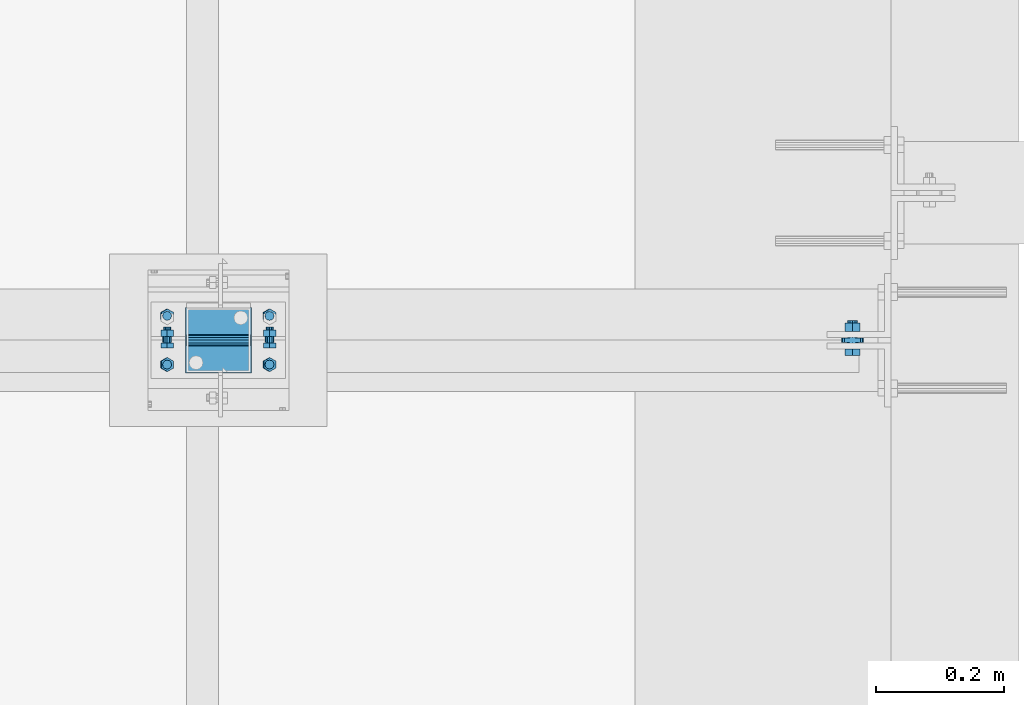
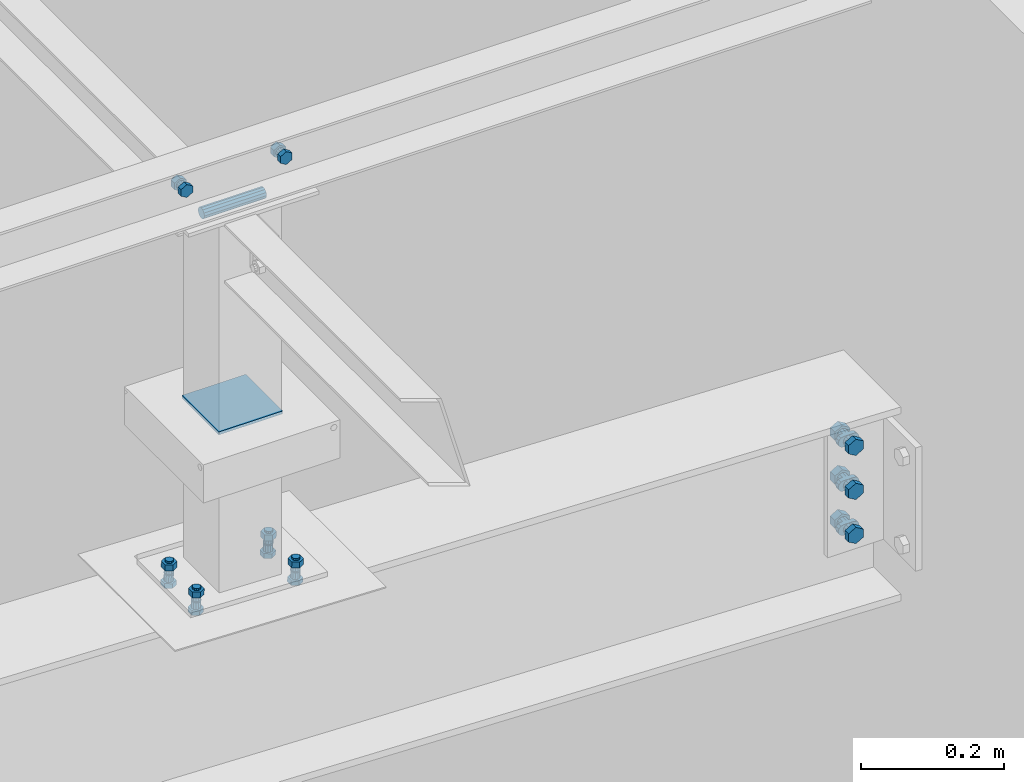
# One storey, part 277 of 3134: 6 mechanical fasteners, 5 elements without a shape of their own.
"""IFC2X3 building model written with IfcOpenShell, lengths in millimetres."""

from ifc_helpers import new_model, si_unit, frame, origin_with_axes, place, context, subcontext, project, spatial, faceted_brep, source, transform, mapped, material, type_object, element, aggregate, save


model = new_model("IFC2X3")

# Units and contexts
model_context = context("Model", 3, precision=1e-05, world=origin_with_axes())
body_context = subcontext(model_context, "Body", "Model", "MODEL_VIEW")
ifc_project = project(units=[si_unit("LENGTHUNIT", "METRE", prefix="MILLI"), si_unit("AREAUNIT", "SQUARE_METRE"), si_unit("VOLUMEUNIT", "CUBIC_METRE"), si_unit("MASSUNIT", "GRAM", prefix="KILO"), si_unit("TIMEUNIT", "SECOND"), si_unit("PLANEANGLEUNIT", "RADIAN"), si_unit("SOLIDANGLEUNIT", "STERADIAN"), si_unit("THERMODYNAMICTEMPERATUREUNIT", "DEGREE_CELSIUS"), si_unit("LUMINOUSINTENSITYUNIT", "LUMEN")], contexts=[model_context])

# Site, building, storey
site_placement = place(None, origin_with_axes())
site = spatial("IfcSite", under=ifc_project, at=site_placement, CompositionType="ELEMENT")
building_placement = place(site_placement, origin_with_axes())
building = spatial("IfcBuilding", under=site, at=building_placement, Name="Undefined", CompositionType="ELEMENT")
storey_placement = place(building_placement, origin_with_axes())
storey = spatial("IfcBuildingStorey", under=building, at=storey_placement, Name="Undefined", CompositionType="ELEMENT", Elevation=0.0)

# Assembly, mechanical fastener
assembly_1_placement = place(storey_placement, origin_with_axes())
assembly_1 = element("IfcElementAssembly", 1, at=assembly_1_placement, inside=storey, AssemblyPlace="NOTDEFINED", PredefinedType="RIGID_FRAME")
ifc_material_1 = material(Name="8.8")
mechanical_fastener_type = type_object("IfcMechanicalFastenerType", Name="Bolt assembly")
shared_shape_1 = source(origin_with_axes(), body_context, "Body", "Brep", [
    faceted_brep([(13.856406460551, -24.0, 0.0), (6.92820323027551, -24.0, 12.0), (-6.92820323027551, -24.0, 12.0), (-13.856406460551, -24.0, 1.69692038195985e-15), (-6.92820323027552, -24.0, -12.0), (6.9282032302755, -24.0, -12.0), (6.9282032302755, -14.0, -12.0), (-6.92820323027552, -14.0, -12.0), (-13.856406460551, -14.0, 1.69692038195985e-15), (-6.92820323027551, -14.0, 12.0), (6.92820323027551, -14.0, 12.0), (13.856406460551, -14.0, 0.0), (8.0, -14.0, 0.0), (6.92820323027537, -14.0, 4.00000000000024), (3.99999999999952, -14.0, 6.92820323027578), (-8.29068785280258e-13, -14.0, 8.0), (-4.00000000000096, -14.0, 6.92820323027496), (-6.9282032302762, -14.0, 3.99999999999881), (-8.0, -14.0, -1.65813757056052e-12), (-6.92820323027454, -14.0, -4.00000000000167), (-3.99999999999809, -14.0, -6.92820323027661), (2.47832457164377e-12, -14.0, -8.0), (4.00000000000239, -14.0, -6.92820323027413), (6.92820323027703, -14.0, -3.99999999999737), (6.92820323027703, 31.0, -3.99999999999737), (4.00000000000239, 31.0, -6.92820323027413), (2.47832457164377e-12, 31.0, -8.0), (-3.99999999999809, 31.0, -6.92820323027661), (-6.92820323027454, 31.0, -4.00000000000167), (-8.0, 31.0, -1.65813757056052e-12), (-6.9282032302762, 31.0, 3.99999999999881), (-4.00000000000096, 31.0, 6.92820323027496), (-8.29068785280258e-13, 31.0, 8.0), (3.99999999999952, 31.0, 6.92820323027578), (6.92820323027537, 31.0, 4.00000000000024), (8.0, 31.0, 0.0), (13.856406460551, 13.9999999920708, 0.0), (6.92820323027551, 13.9999999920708, 12.0), (-6.92820323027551, 13.9999999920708, 12.0), (-13.856406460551, 13.9999999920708, 1.69692038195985e-15), (-6.92820323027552, 13.9999999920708, -12.0), (6.9282032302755, 13.9999999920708, -12.0), (6.9282032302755, 27.0, -12.0), (-6.92820323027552, 27.0, -12.0), (-13.856406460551, 27.0, 1.69692038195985e-15), (-6.92820323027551, 27.0, 12.0), (6.92820323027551, 27.0, 12.0), (13.856406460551, 27.0, 0.0)], [[[0, 1, 2, 3, 4, 5]], [[6, 7, 8, 9, 10, 11]], [[0, 11, 10, 1]], [[1, 10, 9, 2]], [[2, 9, 8, 3]], [[3, 8, 7, 4]], [[4, 7, 6, 5]], [[5, 6, 11, 0]], [[12, 13, 14, 15, 16, 17, 18, 19, 20, 21, 22, 23]], [[24, 25, 26, 27, 28, 29, 30, 31, 32, 33, 34, 35]], [[12, 35, 34, 13]], [[13, 34, 33, 14]], [[14, 33, 32, 15]], [[15, 32, 31, 16]], [[16, 31, 30, 17]], [[17, 30, 29, 18]], [[18, 29, 28, 19]], [[19, 28, 27, 20]], [[20, 27, 26, 21]], [[21, 26, 25, 22]], [[22, 25, 24, 23]], [[23, 24, 35, 12]], [[36, 37, 38, 39, 40, 41]], [[42, 43, 44, 45, 46, 47]], [[36, 47, 46, 37]], [[37, 46, 45, 38]], [[38, 45, 44, 39]], [[39, 44, 43, 40]], [[40, 43, 42, 41]], [[41, 42, 47, 36]]]),
    faceted_brep([(9.0, -3.75, 8.0), (8.31491579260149, -3.75, 11.444150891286), (6.3639610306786, -3.75, 14.3639610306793), (-9.3270238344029e-13, -3.75, 17.0), (-4.50000000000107, -3.75, 15.7942286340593), (-7.79422863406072, -3.75, 12.4999999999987), (-9.0, -3.75, 7.99999999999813), (-9.0, -3.75, -8.00000000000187), (-7.79422863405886, -3.75, -12.5000000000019), (-4.49999999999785, -3.75, -15.7942286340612), (2.78811514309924e-12, -3.75, -17.0), (4.50000000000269, -3.75, -15.7942286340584), (7.79422863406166, -3.75, -12.499999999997), (9.0, -3.75, -7.99999999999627), (9.0, 3.75, -7.99999999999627), (7.79422863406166, 3.75, -12.499999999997), (4.50000000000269, 3.75, -15.7942286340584), (2.78811514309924e-12, 3.75, -17.0), (-4.49999999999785, 3.75, -15.7942286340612), (-7.79422863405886, 3.75, -12.5000000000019), (-9.0, 3.75, -8.00000000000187), (-9.0, 3.75, 7.99999999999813), (-7.79422863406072, 3.75, 12.4999999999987), (-4.50000000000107, 3.75, 15.7942286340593), (-9.3270238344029e-13, 3.75, 17.0), (3.44415089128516, 3.75, 16.3149157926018), (6.3639610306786, 3.75, 14.3639610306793), (8.31491579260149, 3.75, 11.444150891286), (9.0, 3.75, 8.0), (3.44415089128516, -3.75, 16.3149157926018), (9.0, 3.9, 0.0), (7.79422863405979, 3.9, 4.50000000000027), (4.49999999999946, 3.9, 7.79422863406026), (-9.3270238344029e-13, 3.9, 9.0), (-4.50000000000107, 3.9, 7.79422863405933), (-7.79422863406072, 3.9, 4.49999999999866), (-9.0, 3.9, -1.86540476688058e-12), (-7.79422863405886, 3.9, -4.50000000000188), (-4.49999999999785, 3.9, -7.79422863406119), (2.78811514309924e-12, 3.9, -9.0), (4.50000000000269, 3.9, -7.7942286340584), (7.79422863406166, 3.9, -4.49999999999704), (7.79422863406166, 14.0, -4.49999999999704), (4.50000000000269, 14.0, -7.7942286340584), (2.78811514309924e-12, 14.0, -9.0), (-4.49999999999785, 14.0, -7.79422863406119), (-7.79422863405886, 14.0, -4.50000000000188), (-9.0, 14.0, -1.86540476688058e-12), (-7.79422863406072, 14.0, 4.49999999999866), (-4.50000000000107, 14.0, 7.79422863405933), (-9.3270238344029e-13, 14.0, 9.0), (4.49999999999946, 14.0, 7.79422863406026), (7.79422863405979, 14.0, 4.50000000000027), (9.0, 14.0, 0.0), (9.0, -13.9, 0.0), (7.79422863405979, -13.9, 4.50000000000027), (4.49999999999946, -13.9, 7.79422863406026), (-9.3270238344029e-13, -13.9, 9.0), (-4.50000000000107, -13.9, 7.79422863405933), (-7.79422863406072, -13.9, 4.49999999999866), (-9.0, -13.9, -1.86540476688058e-12), (-7.79422863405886, -13.9, -4.50000000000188), (-4.49999999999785, -13.9, -7.79422863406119), (2.78811514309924e-12, -13.9, -9.0), (4.50000000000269, -13.9, -7.7942286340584), (7.79422863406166, -13.9, -4.49999999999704), (7.79422863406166, -3.9, -4.49999999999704), (4.50000000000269, -3.9, -7.7942286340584), (2.78811514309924e-12, -3.9, -9.0), (-4.49999999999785, -3.9, -7.79422863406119), (-7.79422863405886, -3.9, -4.50000000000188), (-9.0, -3.9, -1.86540476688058e-12), (-7.79422863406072, -3.9, 4.49999999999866), (-4.50000000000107, -3.9, 7.79422863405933), (-9.3270238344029e-13, -3.9, 9.0), (4.49999999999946, -3.9, 7.79422863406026), (7.79422863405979, -3.9, 4.50000000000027), (9.0, -3.9, 0.0)], [[[0, 1, 2, 3, 4, 5, 6, 7, 8, 9, 10, 11, 12, 13]], [[14, 15, 16, 17, 18, 19, 20, 21, 22, 23, 24, 25, 26, 27, 28]], [[0, 28, 27, 1]], [[1, 27, 26, 2]], [[2, 26, 25, 29]], [[29, 25, 24, 3]], [[3, 24, 23, 4]], [[4, 23, 22, 5]], [[5, 22, 21, 6]], [[6, 21, 20, 7]], [[7, 20, 19, 8]], [[8, 19, 18, 9]], [[9, 18, 17, 10]], [[10, 17, 16, 11]], [[11, 16, 15, 12]], [[12, 15, 14, 13]], [[13, 14, 28, 0]], [[30, 31, 32, 33, 34, 35, 36, 37, 38, 39, 40, 41]], [[42, 43, 44, 45, 46, 47, 48, 49, 50, 51, 52, 53]], [[30, 53, 52, 31]], [[31, 52, 51, 32]], [[32, 51, 50, 33]], [[33, 50, 49, 34]], [[34, 49, 48, 35]], [[35, 48, 47, 36]], [[36, 47, 46, 37]], [[37, 46, 45, 38]], [[38, 45, 44, 39]], [[39, 44, 43, 40]], [[40, 43, 42, 41]], [[41, 42, 53, 30]], [[54, 55, 56, 57, 58, 59, 60, 61, 62, 63, 64, 65]], [[66, 67, 68, 69, 70, 71, 72, 73, 74, 75, 76, 77]], [[54, 77, 76, 55]], [[55, 76, 75, 56]], [[56, 75, 74, 57]], [[57, 74, 73, 58]], [[58, 73, 72, 59]], [[59, 72, 71, 60]], [[60, 71, 70, 61]], [[61, 70, 69, 62]], [[62, 69, 68, 63]], [[63, 68, 67, 64]], [[64, 67, 66, 65]], [[65, 66, 77, 54]]]),
])
mechanical_fastener_1_placement = place(assembly_1_placement, frame((32665.0, 58220.0, 10096.4159140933), z_axis=(1.0, 0.0, 0.0), x_axis=(0.0, 0.0, -1.0)))
mechanical_fastener_1 = element("IfcMechanicalFastener", 2, at=mechanical_fastener_1_placement, type_object=mechanical_fastener_type, material=ifc_material_1, Name="Bolt assembly", NominalDiameter=16.0, NominalLength=45.0, context=body_context, shape_type="MappedRepresentation", body=[
    mapped(shared_shape_1, transform((0.0, 0.0, 0.0))),
    mapped(shared_shape_1, transform((75.0, 0.0, 0.0))),
    mapped(shared_shape_1, transform((150.0, 0.0, 0.0))),
])
aggregate(assembly_1, [mechanical_fastener_1])

assembly_2_placement = place(storey_placement, origin_with_axes())
assembly_2 = element("IfcElementAssembly", 3, at=assembly_2_placement, inside=storey, AssemblyPlace="NOTDEFINED", PredefinedType="RIGID_FRAME")
shared_shape_2 = source(origin_with_axes(), body_context, "Body", "Brep", [
    faceted_brep([(7.0, 13.0000253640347, 0.0), (6.06217782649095, 13.0000253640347, 3.50000000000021), (3.49999999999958, 13.0000253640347, 6.06217782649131), (-7.25435187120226e-13, 13.0000253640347, 7.0), (-3.50000000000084, 13.0000253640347, 6.06217782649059), (-6.06217782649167, 13.0000253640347, 3.49999999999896), (-7.0, 13.0000253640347, -1.45087037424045e-12), (-6.06217782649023, 13.0000253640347, -3.50000000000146), (-3.49999999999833, 13.0000253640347, -6.06217782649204), (2.1685340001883e-12, 13.0000253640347, -7.0), (3.50000000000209, 13.0000253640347, -6.06217782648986), (6.0621778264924, 13.0000253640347, -3.4999999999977), (6.0621778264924, 15.0999999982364, -3.4999999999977), (3.50000000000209, 15.0999999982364, -6.06217782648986), (2.1685340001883e-12, 15.0999999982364, -7.0), (-3.49999999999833, 15.0999999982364, -6.06217782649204), (-6.06217782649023, 15.0999999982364, -3.50000000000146), (-7.0, 15.0999999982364, -1.45087037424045e-12), (-6.06217782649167, 15.0999999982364, 3.49999999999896), (-3.50000000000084, 15.0999999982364, 6.06217782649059), (-7.25435187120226e-13, 15.0999999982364, 7.0), (3.49999999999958, 15.0999999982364, 6.06217782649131), (6.06217782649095, 15.0999999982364, 3.50000000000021), (7.0, 15.0999999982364, 0.0)], [[[0, 1, 2, 3, 4, 5, 6, 7, 8, 9, 10, 11]], [[12, 13, 14, 15, 16, 17, 18, 19, 20, 21, 22, 23]], [[0, 23, 22, 1]], [[1, 22, 21, 2]], [[2, 21, 20, 3]], [[3, 20, 19, 4]], [[4, 19, 18, 5]], [[5, 18, 17, 6]], [[6, 17, 16, 7]], [[7, 16, 15, 8]], [[8, 15, 14, 9]], [[9, 14, 13, 10]], [[10, 13, 12, 11]], [[11, 12, 23, 0]]]),
])
mechanical_fastener_2_placement = place(assembly_2_placement, frame((31674.2851187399, 58258.0, 10204.1872055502), z_axis=(-0.99951962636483, 0.0, 0.0309922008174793), x_axis=(0.0, -1.0, 0.0)))
mechanical_fastener_2 = element("IfcMechanicalFastener", 4, at=mechanical_fastener_2_placement, type_object=mechanical_fastener_type, material=ifc_material_1, Name="Bolt assembly", NominalDiameter=12.0, NominalLength=2.0, context=body_context, shape_type="MappedRepresentation", body=[
    mapped(shared_shape_2, transform((0.0, -5.32963895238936e-10, -79.9999999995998))),
    mapped(shared_shape_2, transform((76.0, -5.32963895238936e-10, -79.9999999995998))),
    mapped(shared_shape_2, transform((0.0, 5.3114490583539e-10, 79.9999999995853))),
    mapped(shared_shape_2, transform((76.0, 5.3114490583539e-10, 79.9999999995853))),
])
aggregate(assembly_2, [mechanical_fastener_2])

# Assembly, mechanical fasteners
assembly_3_placement = place(storey_placement, origin_with_axes())
assembly_3 = element("IfcElementAssembly", 5, at=assembly_3_placement, inside=storey, AssemblyPlace="NOTDEFINED", PredefinedType="RIGID_FRAME")
shared_shape_3 = source(origin_with_axes(), body_context, "Body", "Brep", [
    faceted_brep([(9.0, -50.0, 0.0), (7.79422863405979, -50.0, 4.50000000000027), (4.49999999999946, -50.0, 7.79422863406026), (-9.3270238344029e-13, -50.0, 9.0), (-4.50000000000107, -50.0, 7.79422863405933), (-7.79422863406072, -50.0, 4.49999999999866), (-9.0, -50.0, -1.86540476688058e-12), (-7.79422863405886, -50.0, -4.50000000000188), (-4.49999999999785, -50.0, -7.79422863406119), (2.78811514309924e-12, -50.0, -9.0), (4.50000000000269, -50.0, -7.7942286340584), (7.79422863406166, -50.0, -4.49999999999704), (7.79422863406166, 50.1, -4.49999999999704), (4.50000000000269, 50.1, -7.7942286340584), (2.78811514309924e-12, 50.1, -9.0), (-4.49999999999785, 50.1, -7.79422863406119), (-7.79422863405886, 50.1, -4.50000000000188), (-9.0, 50.1, -1.86540476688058e-12), (-7.79422863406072, 50.1, 4.49999999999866), (-4.50000000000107, 50.1, 7.79422863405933), (-9.3270238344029e-13, 50.1, 9.0), (4.49999999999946, 50.1, 7.79422863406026), (7.79422863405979, 50.1, 4.50000000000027), (9.0, 50.1, 0.0)], [[[0, 1, 2, 3, 4, 5, 6, 7, 8, 9, 10, 11]], [[12, 13, 14, 15, 16, 17, 18, 19, 20, 21, 22, 23]], [[0, 23, 22, 1]], [[1, 22, 21, 2]], [[2, 21, 20, 3]], [[3, 20, 19, 4]], [[4, 19, 18, 5]], [[5, 18, 17, 6]], [[6, 17, 16, 7]], [[7, 16, 15, 8]], [[8, 15, 14, 9]], [[9, 14, 13, 10]], [[10, 13, 12, 11]], [[11, 12, 23, 0]]]),
])
mechanical_fastener_3_placement = place(assembly_3_placement, frame((31675.0, 58220.0, 10845.0), z_axis=(0.0, 1.0, 0.0), x_axis=(0.0, 0.0, 1.0)))
mechanical_fastener_3 = element("IfcMechanicalFastener", 6, at=mechanical_fastener_3_placement, type_object=mechanical_fastener_type, material=ifc_material_1, Name="Bolt assembly", NominalDiameter=16.0, NominalLength=100.0, context=body_context, shape_type="MappedRepresentation", body=[
    mapped(shared_shape_3, transform((0.0, 0.0, 0.0))),
])
ifc_material_2 = material(Name="6.8")
shared_shape_4 = source(origin_with_axes(), body_context, "Body", "Brep", [
    faceted_brep([(51.5, 1.36424205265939e-12, 50.0), (51.3858192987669, 1.36424205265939e-12, 50.5740251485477), (51.0606601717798, 1.36424205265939e-12, 51.0606601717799), (50.5740251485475, 1.36424205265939e-12, 51.385819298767), (-50.0000000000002, 1.36424205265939e-12, 51.5), (-50.7500000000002, 1.36424205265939e-12, 51.2990381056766), (-51.2990381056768, 1.36424205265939e-12, 50.7499999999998), (-51.5, 1.36424205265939e-12, 49.9999999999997), (-51.5, 1.36424205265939e-12, -50.0000000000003), (-51.2990381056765, 1.36424205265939e-12, -50.7500000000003), (-50.7499999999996, 1.36424205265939e-12, -51.2990381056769), (-49.9999999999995, 1.36424205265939e-12, -51.5), (50.0000000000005, 1.36424205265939e-12, -51.5), (50.7500000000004, 1.36424205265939e-12, -51.2990381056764), (51.2990381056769, 1.36424205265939e-12, -50.7499999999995), (51.5, 1.36424205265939e-12, -49.9999999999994), (51.5, 5.10000000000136, -49.9999999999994), (51.2990381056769, 5.10000000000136, -50.7499999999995), (50.7500000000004, 5.10000000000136, -51.2990381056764), (50.0000000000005, 5.10000000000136, -51.5), (-49.9999999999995, 5.10000000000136, -51.5), (-50.7499999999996, 5.10000000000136, -51.2990381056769), (-51.2990381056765, 5.10000000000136, -50.7500000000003), (-51.5, 5.10000000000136, -50.0000000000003), (-51.5, 5.10000000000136, 49.9999999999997), (-51.2990381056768, 5.10000000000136, 50.7499999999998), (-50.7500000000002, 5.10000000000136, 51.2990381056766), (-50.0000000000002, 5.10000000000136, 51.5), (50.5740251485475, 5.10000000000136, 51.385819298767), (51.0606601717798, 5.10000000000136, 51.0606601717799), (51.3858192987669, 5.10000000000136, 50.5740251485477), (51.5, 5.10000000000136, 50.0)], [[[0, 1, 2, 3, 4, 5, 6, 7, 8, 9, 10, 11, 12, 13, 14, 15]], [[16, 17, 18, 19, 20, 21, 22, 23, 24, 25, 26, 27, 28, 29, 30, 31]], [[0, 31, 30, 1]], [[1, 30, 29, 2]], [[2, 29, 28, 3]], [[3, 28, 27, 4]], [[4, 27, 26, 5]], [[5, 26, 25, 6]], [[6, 25, 24, 7]], [[7, 24, 23, 8]], [[8, 23, 22, 9]], [[9, 22, 21, 10]], [[10, 21, 20, 11]], [[11, 20, 19, 12]], [[12, 19, 18, 13]], [[13, 18, 17, 14]], [[14, 17, 16, 15]], [[15, 16, 31, 0]]]),
])
mechanical_fastener_4_placement = place(assembly_3_placement, frame((31675.0, 58220.0, 10503.87), z_axis=(0.0, -1.0, 0.0), x_axis=(-1.0, 0.0, 0.0)))
mechanical_fastener_4 = element("IfcMechanicalFastener", 7, at=mechanical_fastener_4_placement, type_object=mechanical_fastener_type, material=ifc_material_2, Name="Bolt assembly", NominalDiameter=10.0, NominalLength=5.0, context=body_context, shape_type="MappedRepresentation", body=[
    mapped(shared_shape_4, transform((0.0, 0.0, 0.0))),
])
aggregate(assembly_3, [mechanical_fastener_3, mechanical_fastener_4])

# Assembly, mechanical fastener
assembly_4_placement = place(storey_placement, origin_with_axes())
assembly_4 = element("IfcElementAssembly", 8, at=assembly_4_placement, inside=storey, AssemblyPlace="NOTDEFINED", PredefinedType="RIGID_FRAME")
shared_shape_5 = source(origin_with_axes(), body_context, "Body", "Brep", [
    faceted_brep([(10.9696551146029, -12.0, 0.0), (5.48482755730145, -12.0, 9.5), (-5.48482755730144, -12.0, 9.5), (-10.9696551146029, -12.0, 1.34339530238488e-15), (-5.48482755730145, -12.0, -9.5), (5.48482755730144, -12.0, -9.50000000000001), (5.48482755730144, -4.0, -9.50000000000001), (-5.48482755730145, -4.0, -9.5), (-10.9696551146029, -4.0, 1.34339530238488e-15), (-5.48482755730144, -4.0, 9.5), (5.48482755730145, -4.0, 9.5), (10.9696551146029, -4.0, 0.0), (6.0, -4.0, 0.0), (5.19615242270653, -4.0, 3.00000000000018), (2.99999999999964, -4.0, 5.19615242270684), (-6.21801588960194e-13, -4.0, 6.0), (-3.00000000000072, -4.0, 5.19615242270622), (-5.19615242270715, -4.0, 2.9999999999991), (-6.0, -4.0, -1.24360317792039e-12), (-5.19615242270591, -4.0, -3.00000000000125), (-2.99999999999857, -4.0, -5.19615242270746), (1.85874342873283e-12, -4.0, -6.0), (3.00000000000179, -4.0, -5.1961524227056), (5.19615242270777, -4.0, -2.99999999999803), (5.19615242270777, 21.0, -2.99999999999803), (3.00000000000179, 21.0, -5.1961524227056), (1.85874342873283e-12, 21.0, -6.0), (-2.99999999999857, 21.0, -5.19615242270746), (-5.19615242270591, 21.0, -3.00000000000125), (-6.0, 21.0, -1.24360317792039e-12), (-5.19615242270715, 21.0, 2.9999999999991), (-3.00000000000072, 21.0, 5.19615242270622), (-6.21801588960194e-13, 21.0, 6.0), (2.99999999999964, 21.0, 5.19615242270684), (5.19615242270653, 21.0, 3.00000000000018), (6.0, 21.0, 0.0), (10.9696551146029, 6.00000000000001, 0.0), (5.48482755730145, 6.00000000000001, 9.5), (-5.48482755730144, 6.00000000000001, 9.5), (-10.9696551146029, 6.00000000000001, 1.34339530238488e-15), (-5.48482755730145, 6.00000000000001, -9.5), (5.48482755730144, 6.00000000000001, -9.50000000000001), (5.48482755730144, 16.0, -9.50000000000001), (-5.48482755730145, 16.0, -9.5), (-10.9696551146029, 16.0, 1.34339530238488e-15), (-5.48482755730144, 16.0, 9.5), (5.48482755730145, 16.0, 9.5), (10.9696551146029, 16.0, 0.0)], [[[0, 1, 2, 3, 4, 5]], [[6, 7, 8, 9, 10, 11]], [[0, 11, 10, 1]], [[1, 10, 9, 2]], [[2, 9, 8, 3]], [[3, 8, 7, 4]], [[4, 7, 6, 5]], [[5, 6, 11, 0]], [[12, 13, 14, 15, 16, 17, 18, 19, 20, 21, 22, 23]], [[24, 25, 26, 27, 28, 29, 30, 31, 32, 33, 34, 35]], [[12, 35, 34, 13]], [[13, 34, 33, 14]], [[14, 33, 32, 15]], [[15, 32, 31, 16]], [[16, 31, 30, 17]], [[17, 30, 29, 18]], [[18, 29, 28, 19]], [[19, 28, 27, 20]], [[20, 27, 26, 21]], [[21, 26, 25, 22]], [[22, 25, 24, 23]], [[23, 24, 35, 12]], [[36, 37, 38, 39, 40, 41]], [[42, 43, 44, 45, 46, 47]], [[36, 47, 46, 37]], [[37, 46, 45, 38]], [[38, 45, 44, 39]], [[39, 44, 43, 40]], [[40, 43, 42, 41]], [[41, 42, 47, 36]]]),
    faceted_brep([(7.0, -3.9, 0.0), (6.06217782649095, -3.9, 3.50000000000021), (3.49999999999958, -3.9, 6.06217782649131), (-7.25435187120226e-13, -3.9, 7.0), (-3.50000000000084, -3.9, 6.06217782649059), (-6.06217782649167, -3.9, 3.49999999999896), (-7.0, -3.9, -1.45087037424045e-12), (-6.06217782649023, -3.9, -3.50000000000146), (-3.49999999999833, -3.9, -6.06217782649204), (2.1685340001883e-12, -3.9, -7.0), (3.50000000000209, -3.9, -6.06217782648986), (6.0621778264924, -3.9, -3.4999999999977), (6.0621778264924, 0.0999999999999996, -3.4999999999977), (3.50000000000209, 0.0999999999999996, -6.06217782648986), (2.1685340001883e-12, 0.0999999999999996, -7.0), (-3.49999999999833, 0.0999999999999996, -6.06217782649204), (-6.06217782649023, 0.0999999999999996, -3.50000000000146), (-7.0, 0.0999999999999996, -1.45087037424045e-12), (-6.06217782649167, 0.0999999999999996, 3.49999999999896), (-3.50000000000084, 0.0999999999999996, 6.06217782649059), (-7.25435187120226e-13, 0.0999999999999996, 7.0), (3.49999999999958, 0.0999999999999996, 6.06217782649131), (6.06217782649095, 0.0999999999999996, 3.50000000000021), (7.0, 0.0999999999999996, 0.0), (7.0, -0.1, 0.0), (6.06217782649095, -0.1, 3.50000000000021), (3.49999999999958, -0.1, 6.06217782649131), (-7.25435187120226e-13, -0.1, 7.0), (-3.50000000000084, -0.1, 6.06217782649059), (-6.06217782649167, -0.1, 3.49999999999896), (-7.0, -0.1, -1.45087037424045e-12), (-6.06217782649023, -0.1, -3.50000000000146), (-3.49999999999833, -0.1, -6.06217782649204), (2.1685340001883e-12, -0.1, -7.0), (3.50000000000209, -0.1, -6.06217782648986), (6.0621778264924, -0.1, -3.4999999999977), (6.0621778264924, 6.00000000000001, -3.4999999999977), (3.50000000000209, 6.00000000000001, -6.06217782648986), (2.1685340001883e-12, 6.00000000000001, -7.0), (-3.49999999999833, 6.00000000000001, -6.06217782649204), (-6.06217782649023, 6.00000000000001, -3.50000000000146), (-7.0, 6.00000000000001, -1.45087037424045e-12), (-6.06217782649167, 6.00000000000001, 3.49999999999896), (-3.50000000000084, 6.00000000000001, 6.06217782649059), (-7.25435187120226e-13, 6.00000000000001, 7.0), (3.49999999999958, 6.00000000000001, 6.06217782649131), (6.06217782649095, 6.00000000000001, 3.50000000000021), (7.0, 6.00000000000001, 0.0)], [[[0, 1, 2, 3, 4, 5, 6, 7, 8, 9, 10, 11]], [[12, 13, 14, 15, 16, 17, 18, 19, 20, 21, 22, 23]], [[0, 23, 22, 1]], [[1, 22, 21, 2]], [[2, 21, 20, 3]], [[3, 20, 19, 4]], [[4, 19, 18, 5]], [[5, 18, 17, 6]], [[6, 17, 16, 7]], [[7, 16, 15, 8]], [[8, 15, 14, 9]], [[9, 14, 13, 10]], [[10, 13, 12, 11]], [[11, 12, 23, 0]], [[24, 25, 26, 27, 28, 29, 30, 31, 32, 33, 34, 35]], [[36, 37, 38, 39, 40, 41, 42, 43, 44, 45, 46, 47]], [[24, 47, 46, 25]], [[25, 46, 45, 26]], [[26, 45, 44, 27]], [[27, 44, 43, 28]], [[28, 43, 42, 29]], [[29, 42, 41, 30]], [[30, 41, 40, 31]], [[31, 40, 39, 32]], [[32, 39, 38, 33]], [[33, 38, 37, 34]], [[34, 37, 36, 35]], [[35, 36, 47, 24]]]),
])
mechanical_fastener_5_placement = place(assembly_4_placement, frame((31675.0, 58220.0, 10900.0), z_axis=(1.0, 0.0, 0.0), x_axis=(0.0, 0.0, -1.0)))
mechanical_fastener_5 = element("IfcMechanicalFastener", 9, at=mechanical_fastener_5_placement, type_object=mechanical_fastener_type, material=ifc_material_1, Name="Bolt assembly", NominalDiameter=12.0, NominalLength=25.0, context=body_context, shape_type="MappedRepresentation", body=[
    mapped(shared_shape_5, transform((0.0, -5.32963895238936e-10, -79.9999999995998))),
    mapped(shared_shape_5, transform((0.0, 5.3114490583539e-10, 79.9999999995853))),
])
aggregate(assembly_4, [mechanical_fastener_5])

assembly_5_placement = place(storey_placement, origin_with_axes())
assembly_5 = element("IfcElementAssembly", 10, at=assembly_5_placement, inside=storey, Name="IPE330", AssemblyPlace="NOTDEFINED", PredefinedType="RIGID_FRAME")
shared_shape_6 = source(origin_with_axes(), body_context, "Body", "Brep", [
    faceted_brep([(10.9696551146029, -6.48557985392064, 0.0), (5.48482755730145, -6.48557985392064, 9.5), (-5.48482755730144, -6.48557985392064, 9.5), (-10.9696551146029, -6.48557985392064, 1.34339530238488e-15), (-5.48482755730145, -6.48557985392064, -9.5), (5.48482755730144, -6.48557985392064, -9.50000000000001), (5.48482755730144, 1.51442014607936, -9.50000000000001), (-5.48482755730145, 1.51442014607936, -9.5), (-10.9696551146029, 1.51442014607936, 1.34339530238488e-15), (-5.48482755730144, 1.51442014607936, 9.5), (5.48482755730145, 1.51442014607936, 9.5), (10.9696551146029, 1.51442014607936, 0.0), (6.0, 1.51442014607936, 0.0), (5.19615242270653, 1.51442014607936, 3.00000000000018), (2.99999999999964, 1.51442014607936, 5.19615242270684), (-6.21801588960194e-13, 1.51442014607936, 6.0), (-3.00000000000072, 1.51442014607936, 5.19615242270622), (-5.19615242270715, 1.51442014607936, 2.9999999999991), (-6.0, 1.51442014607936, -1.24360317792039e-12), (-5.19615242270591, 1.51442014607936, -3.00000000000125), (-2.99999999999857, 1.51442014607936, -5.19615242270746), (1.85874342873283e-12, 1.51442014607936, -6.0), (3.00000000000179, 1.51442014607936, -5.1961524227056), (5.19615242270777, 1.51442014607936, -2.99999999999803), (5.19615242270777, 36.5144201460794, -2.99999999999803), (3.00000000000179, 36.5144201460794, -5.1961524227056), (1.85874342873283e-12, 36.5144201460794, -6.0), (-2.99999999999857, 36.5144201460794, -5.19615242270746), (-5.19615242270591, 36.5144201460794, -3.00000000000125), (-6.0, 36.5144201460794, -1.24360317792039e-12), (-5.19615242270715, 36.5144201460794, 2.9999999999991), (-3.00000000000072, 36.5144201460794, 5.19615242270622), (-6.21801588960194e-13, 36.5144201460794, 6.0), (2.99999999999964, 36.5144201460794, 5.19615242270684), (5.19615242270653, 36.5144201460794, 3.00000000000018), (6.0, 36.5144201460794, 0.0), (10.9696551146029, 23.0139082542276, 0.0), (5.48482755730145, 23.0139082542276, 9.5), (-5.48482755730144, 23.0139082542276, 9.5), (-10.9696551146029, 23.0139082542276, 1.34339530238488e-15), (-5.48482755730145, 23.0139082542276, -9.5), (5.48482755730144, 23.0139082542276, -9.50000000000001), (5.48482755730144, 33.0139082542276, -9.50000000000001), (-5.48482755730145, 33.0139082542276, -9.5), (-10.9696551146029, 33.0139082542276, 1.34339530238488e-15), (-5.48482755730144, 33.0139082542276, 9.5), (5.48482755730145, 33.0139082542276, 9.5), (10.9696551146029, 33.0139082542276, 0.0)], [[[0, 1, 2, 3, 4, 5]], [[6, 7, 8, 9, 10, 11]], [[0, 11, 10, 1]], [[1, 10, 9, 2]], [[2, 9, 8, 3]], [[3, 8, 7, 4]], [[4, 7, 6, 5]], [[5, 6, 11, 0]], [[12, 13, 14, 15, 16, 17, 18, 19, 20, 21, 22, 23]], [[24, 25, 26, 27, 28, 29, 30, 31, 32, 33, 34, 35]], [[12, 35, 34, 13]], [[13, 34, 33, 14]], [[14, 33, 32, 15]], [[15, 32, 31, 16]], [[16, 31, 30, 17]], [[17, 30, 29, 18]], [[18, 29, 28, 19]], [[19, 28, 27, 20]], [[20, 27, 26, 21]], [[21, 26, 25, 22]], [[22, 25, 24, 23]], [[23, 24, 35, 12]], [[36, 37, 38, 39, 40, 41]], [[42, 43, 44, 45, 46, 47]], [[36, 47, 46, 37]], [[37, 46, 45, 38]], [[38, 45, 44, 39]], [[39, 44, 43, 40]], [[40, 43, 42, 41]], [[41, 42, 47, 36]]]),
    faceted_brep([(7.0, 14.9139082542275, 0.0), (6.06217782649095, 14.9139082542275, 3.50000000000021), (3.49999999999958, 14.9139082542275, 6.06217782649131), (-7.25435187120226e-13, 14.9139082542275, 7.0), (-3.50000000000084, 14.9139082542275, 6.06217782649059), (-6.06217782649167, 14.9139082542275, 3.49999999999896), (-7.0, 14.9139082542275, -1.45087037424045e-12), (-6.06217782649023, 14.9139082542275, -3.50000000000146), (-3.49999999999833, 14.9139082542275, -6.06217782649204), (2.1685340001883e-12, 14.9139082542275, -7.0), (3.50000000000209, 14.9139082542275, -6.06217782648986), (6.0621778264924, 14.9139082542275, -3.4999999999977), (6.0621778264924, 23.0139082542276, -3.4999999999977), (3.50000000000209, 23.0139082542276, -6.06217782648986), (2.1685340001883e-12, 23.0139082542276, -7.0), (-3.49999999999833, 23.0139082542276, -6.06217782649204), (-6.06217782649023, 23.0139082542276, -3.50000000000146), (-7.0, 23.0139082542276, -1.45087037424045e-12), (-6.06217782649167, 23.0139082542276, 3.49999999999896), (-3.50000000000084, 23.0139082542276, 6.06217782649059), (-7.25435187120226e-13, 23.0139082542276, 7.0), (3.49999999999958, 23.0139082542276, 6.06217782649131), (6.06217782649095, 23.0139082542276, 3.50000000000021), (7.0, 23.0139082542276, 0.0), (7.0, 1.61442014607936, 0.0), (6.06217782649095, 1.61442014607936, 3.50000000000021), (3.49999999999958, 1.61442014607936, 6.06217782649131), (-7.25435187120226e-13, 1.61442014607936, 7.0), (-3.50000000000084, 1.61442014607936, 6.06217782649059), (-6.06217782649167, 1.61442014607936, 3.49999999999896), (-7.0, 1.61442014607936, -1.45087037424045e-12), (-6.06217782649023, 1.61442014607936, -3.50000000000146), (-3.49999999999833, 1.61442014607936, -6.06217782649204), (2.1685340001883e-12, 1.61442014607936, -7.0), (3.50000000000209, 1.61442014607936, -6.06217782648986), (6.0621778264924, 1.61442014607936, -3.4999999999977), (6.0621778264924, 13.1144201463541, -3.4999999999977), (3.50000000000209, 13.1144201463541, -6.06217782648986), (2.1685340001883e-12, 13.1144201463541, -7.0), (-3.49999999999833, 13.1144201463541, -6.06217782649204), (-6.06217782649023, 13.1144201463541, -3.50000000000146), (-7.0, 13.1144201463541, -1.45087037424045e-12), (-6.06217782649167, 13.1144201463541, 3.49999999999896), (-3.50000000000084, 13.1144201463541, 6.06217782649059), (-7.25435187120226e-13, 13.1144201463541, 7.0), (3.49999999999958, 13.1144201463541, 6.06217782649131), (6.06217782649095, 13.1144201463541, 3.50000000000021), (7.0, 13.1144201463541, 0.0)], [[[0, 1, 2, 3, 4, 5, 6, 7, 8, 9, 10, 11]], [[12, 13, 14, 15, 16, 17, 18, 19, 20, 21, 22, 23]], [[0, 23, 22, 1]], [[1, 22, 21, 2]], [[2, 21, 20, 3]], [[3, 20, 19, 4]], [[4, 19, 18, 5]], [[5, 18, 17, 6]], [[6, 17, 16, 7]], [[7, 16, 15, 8]], [[8, 15, 14, 9]], [[9, 14, 13, 10]], [[10, 13, 12, 11]], [[11, 12, 23, 0]], [[24, 25, 26, 27, 28, 29, 30, 31, 32, 33, 34, 35]], [[36, 37, 38, 39, 40, 41, 42, 43, 44, 45, 46, 47]], [[24, 47, 46, 25]], [[25, 46, 45, 26]], [[26, 45, 44, 27]], [[27, 44, 43, 28]], [[28, 43, 42, 29]], [[29, 42, 41, 30]], [[30, 41, 40, 31]], [[31, 40, 39, 32]], [[32, 39, 38, 33]], [[33, 38, 37, 34]], [[34, 37, 36, 35]], [[35, 36, 47, 24]]]),
])
mechanical_fastener_6_placement = place(assembly_5_placement, frame((31674.2851187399, 58258.0, 10204.1872055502), z_axis=(-0.99951962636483, 0.0, 0.0309922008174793), x_axis=(0.0, -1.0, 0.0)))
mechanical_fastener_6 = element("IfcMechanicalFastener", 11, at=mechanical_fastener_6_placement, type_object=mechanical_fastener_type, material=ifc_material_1, Name="Bolt assembly", NominalDiameter=12.0, NominalLength=35.0, context=body_context, shape_type="MappedRepresentation", body=[
    mapped(shared_shape_6, transform((0.0, -5.32963895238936e-10, -79.9999999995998))),
    mapped(shared_shape_6, transform((76.0, -5.32963895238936e-10, -79.9999999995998))),
    mapped(shared_shape_6, transform((0.0, 5.3114490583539e-10, 79.9999999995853))),
    mapped(shared_shape_6, transform((76.0, 5.3114490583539e-10, 79.9999999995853))),
])
aggregate(assembly_5, [mechanical_fastener_6])

save(model, "model.ifc")
